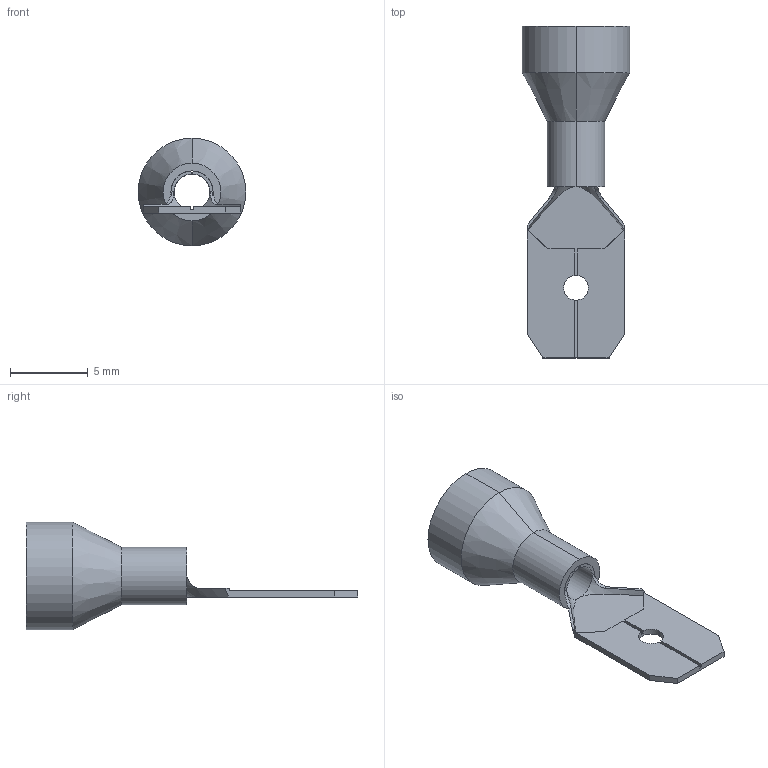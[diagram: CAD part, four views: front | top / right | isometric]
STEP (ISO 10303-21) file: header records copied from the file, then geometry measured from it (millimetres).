
FILE_DESCRIPTION (( 'STEP AP214' ), '1' );
FILE_NAME ('278091 OptiKit S-Pp-PVC-2-6-0,4.STEP', '2020-02-19T11:17:06', ( '' ), ( '' ), 'SwSTEP 2.0', 'SolidWorks 2018', '' );
FILE_SCHEMA (( 'AUTOMOTIVE_DESIGN' ));
Length unit declared in the file: millimetre
Products named in the file (3): 朽琥屐 酗蕊 2-6-0,4; Îïëåòêà 22222; 278091 OptiKit S-Pp-PVC-2-6-0,4
Assembly tree (2 placements, depth 2):
  278091 OptiKit S-Pp-PVC-2-6-0,4
    Îïëåòêà 22222
    朽琥屐 酗蕊 2-6-0,4
Bounding box: 6.9 x 21.3 x 6.9 mm (x, y, z)
Volume: 111.5 mm3; surface area: 543.3 mm2
Topology: 2 solids, 2 shells, 49 faces, 124 edges, 78 vertices
Faces by surface type: plane 27, cylinder 12, cone 8, bspline 2
Entity records: 1730 total; most frequent: CARTESIAN_POINT 456, ORIENTED_EDGE 248, DIRECTION 242, EDGE_CURVE 124, AXIS2_PLACEMENT_3D 86, VERTEX_POINT 78, VECTOR 70, LINE 70
